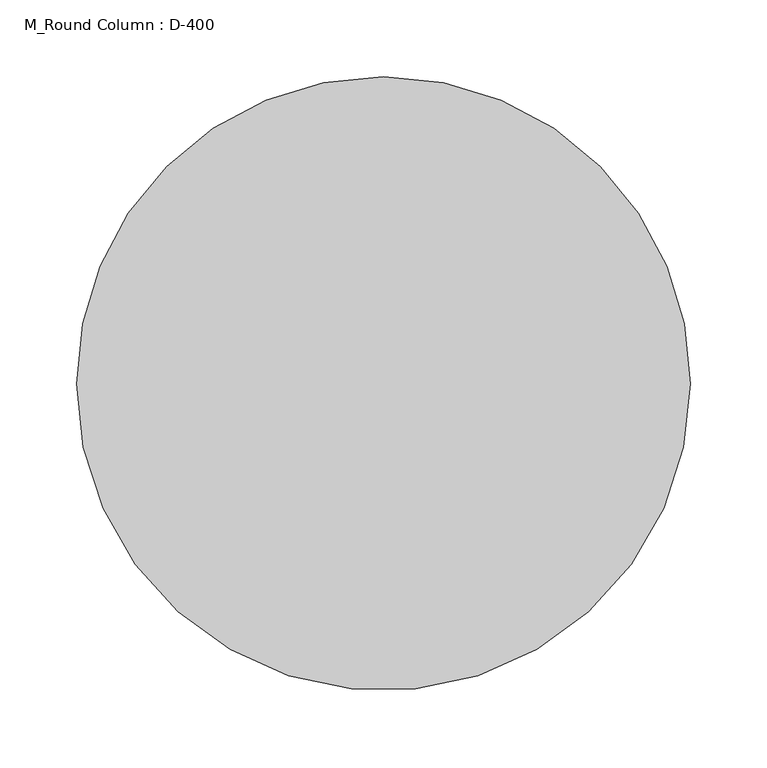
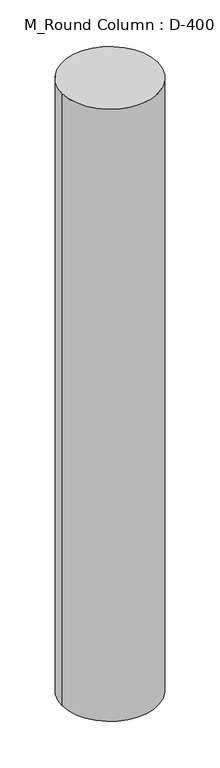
"""IFC4 building model written with IfcOpenShell, lengths in millimetres: column geometry, M_Round Column : D-400."""

from ifc_helpers import new_model, si_unit, point, frame, origin, origin_2d, place, context, project, spatial, circle_curve, trimmed, segment, composite_curve, outline, extrude, source, transform, mapped, element, save


def m_round_column_d_400_e30c7a5e(model_context):
    return source(origin(), model_context, "Body", "SweptSolid", [
        extrude(outline(composite_curve([segment(trimmed(circle_curve(origin_2d(), 200.0), [point((200.0, 0.0))], [point((-200.0, 0.0))], False, "CARTESIAN"), True, "CONTINUOUS"), segment(trimmed(circle_curve(origin_2d(), 200.0), [point((-200.0, 0.0))], [point((0.0, 200.0))], False, "CARTESIAN"), True, "CONTINUOUS"), segment(trimmed(circle_curve(origin_2d(), 200.0), [point((0.0, 200.0))], [point((200.0, 0.0))], False, "CARTESIAN"), True, "CONTINUOUS")], self_intersect=False)), frame((0.0, 0.0, 10640.0), z_axis=(0.0, 0.0, 1.0), x_axis=(1.0, 0.0, 0.0)), (0.0, 0.0, 1.0), 2720.0),
    ])


if __name__ == "__main__":
    model = new_model("IFC4")
    model_context = context("Model", 3, world=origin())
    ifc_project = project(units=[si_unit("LENGTHUNIT", "METRE", prefix="MILLI")], contexts=[model_context])
    site = spatial("IfcSite", under=ifc_project)
    building = spatial("IfcBuilding", under=site)
    placement = place(None, origin())
    m_round_column_d_400_shape = m_round_column_d_400_e30c7a5e(model_context)
    element("IfcColumn", 1, ObjectType="M_Round Column : D-400", at=placement, inside=building, context=model_context, shape_type="MappedRepresentation", body=[
        mapped(m_round_column_d_400_shape, transform((0.0, 0.0, 0.0), x_axis=(1.0, 0.0, 0.0), y_axis=(0.0, 1.0, 0.0), z_axis=(0.0, 0.0, 1.0))),
    ])
    save(model, "model.ifc")
